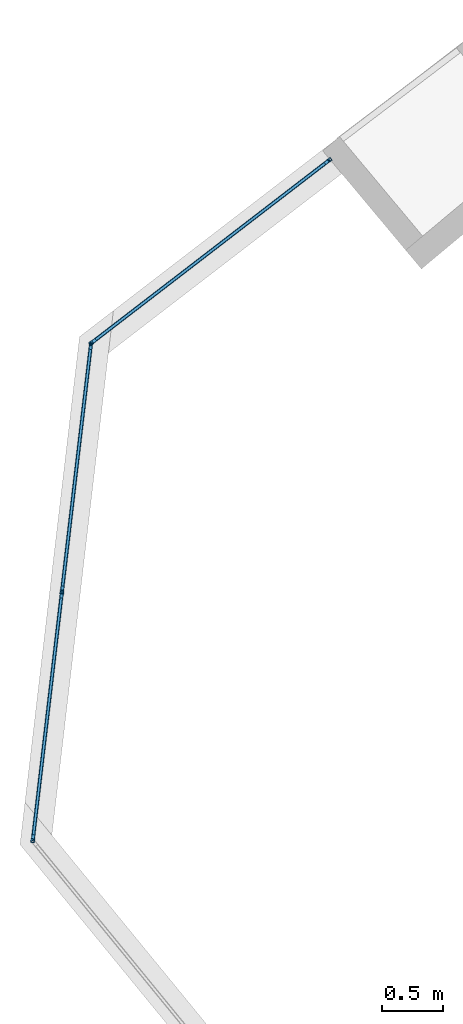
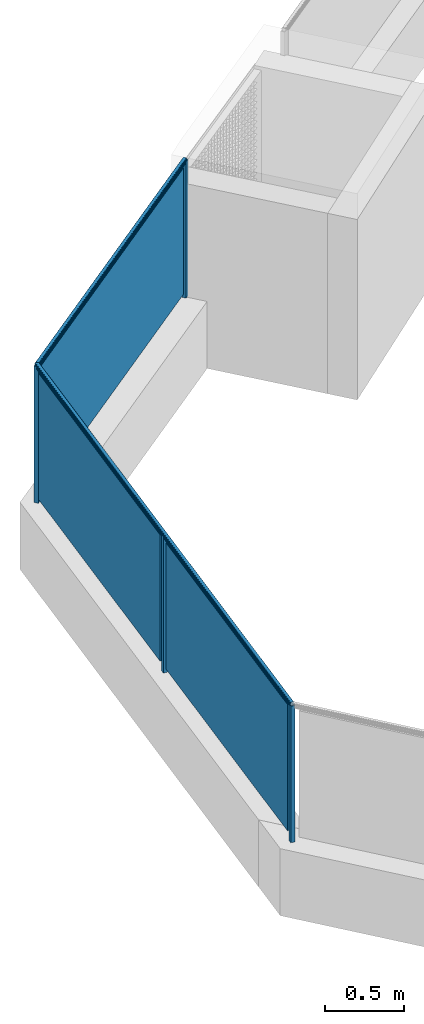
# One storey, part 27 of 67: 9 building element parts, 1 element without a shape of its own.
"""IFC4 building model written with IfcOpenShell, lengths in metres."""

from ifc_helpers import new_model, entity, si_unit, converted_unit, derived_unit, direction, frame, origin_with_axes, place, context, subcontext, project, spatial, polygons, material, type_object, element, aggregate, save


model = new_model("IFC4")

# Units and contexts
model_context = context("Model", 3, precision=1e-05, world=origin_with_axes(), true_north=direction((0.0, 1.0)))
body_context = subcontext(model_context, "Body", "Model", "MODEL_VIEW")
ifc_project = project(units=[si_unit("LENGTHUNIT", "METRE"), si_unit("AREAUNIT", "SQUARE_METRE"), si_unit("VOLUMEUNIT", "CUBIC_METRE"), converted_unit("PLANEANGLEUNIT", "DEGREE", entity("IfcPlaneAngleMeasure", 0.0174532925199), si_unit("PLANEANGLEUNIT", "RADIAN"), dimensions=[0, 0, 0, 0, 0, 0, 0]), converted_unit("TIMEUNIT", "Year", entity("IfcTimeMeasure", 31556926.0), si_unit("TIMEUNIT", "SECOND"), dimensions=[0, 0, 1, 0, 0, 0, 0]), si_unit("MASSUNIT", "GRAM", prefix="KILO"), si_unit("THERMODYNAMICTEMPERATUREUNIT", "DEGREE_CELSIUS"), si_unit("LUMINOUSINTENSITYUNIT", "LUMEN"), si_unit("ENERGYUNIT", "JOULE", prefix="MEGA"), derived_unit("THERMALCONDUCTANCEUNIT", [(si_unit("POWERUNIT", "WATT"), 1), (si_unit("LENGTHUNIT", "METRE"), -1), (si_unit("THERMODYNAMICTEMPERATUREUNIT", "KELVIN"), -1)]), derived_unit("SPECIFICHEATCAPACITYUNIT", [(si_unit("ENERGYUNIT", "JOULE"), 1), (si_unit("MASSUNIT", "GRAM", prefix="KILO"), -1), (si_unit("THERMODYNAMICTEMPERATUREUNIT", "KELVIN"), -1)]), derived_unit("MASSDENSITYUNIT", [(si_unit("MASSUNIT", "GRAM", prefix="KILO"), 1), (si_unit("VOLUMEUNIT", "CUBIC_METRE"), -1)])], contexts=[model_context])

# Site, building, storey
site_placement = place(None, frame((-0.00153261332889, -0.00661245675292, 0.0), z_axis=(0.0, 0.0, 1.0), x_axis=(1.0, 0.0, 0.0)))
site = spatial("IfcSite", under=ifc_project, at=site_placement, Name="Site", CompositionType="ELEMENT")
building_placement = place(site_placement, origin_with_axes())
building = spatial("IfcBuilding", under=site, at=building_placement, Name="Building", CompositionType="ELEMENT")
storey_placement = place(building_placement, frame((0.0, 0.0, -0.22), z_axis=(0.0, 0.0, 1.0), x_axis=(1.0, 0.0, 0.0)))
storey = spatial("IfcBuildingStorey", under=building, at=storey_placement, Name="EG", CompositionType="ELEMENT", Elevation=-0.22)

# Railing, building element parts
railing_type = type_object("IfcRailingType", Name="Geländerart", PredefinedType="NOTDEFINED")
railing_placement = place(storey_placement, frame((-12.1608341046, 23.557810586, 0.523948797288), z_axis=(0.0, 0.0, 1.0), x_axis=(1.0, 0.0, 0.0)))
railing = element("IfcRailing", 1, at=railing_placement, inside=storey, type_object=railing_type, Name="Geländer - 001", PredefinedType="NOTDEFINED")
ifc_material_1 = material(Name="Aluminium")
building_element_part_1_placement = place(railing_placement, origin_with_axes())
building_element_part_1 = element("IfcBuildingElementPart", 2, at=building_element_part_1_placement, material=ifc_material_1, Name="Aluminium", PredefinedType="NOTDEFINED", context=body_context, shape_type="Tessellation", body=[
    polygons([(0.0399227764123, -0.076525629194, 0.0), (0.0582099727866, -0.10030752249, 0.0), (0.0582099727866, -0.10030752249, 1.06), (0.0399227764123, -0.076525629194, 1.06), (0.0637046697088, -0.0582384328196, 0.0), (0.0819918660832, -0.0820203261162, 0.0), (0.0469342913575, -0.0774414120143, 0.0), (0.059125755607, -0.0932960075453, 0.0), (0.074980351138, -0.0811045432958, 0.0), (0.0627888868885, -0.0652499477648, 0.0), (0.0819918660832, -0.0820203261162, 1.06), (0.0637046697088, -0.0582384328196, 1.06), (0.0469342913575, -0.0774414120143, 1.06), (0.0627888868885, -0.0652499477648, 1.06), (0.074980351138, -0.0811045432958, 1.06), (0.059125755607, -0.0932960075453, 1.06)], [[[1, 2, 3, 4]], [[1, 5, 6, 2], [7, 8, 9, 10]], [[2, 6, 11, 3]], [[4, 3, 11, 12], [13, 14, 15, 16]], [[5, 1, 4, 12]], [[6, 5, 12, 11]], [[8, 7, 13, 16]], [[9, 8, 16, 15]], [[10, 9, 15, 14]], [[7, 10, 14, 13]]], closed=True),
])
building_element_part_2_placement = place(railing_placement, origin_with_axes())
building_element_part_2 = element("IfcBuildingElementPart", 3, at=building_element_part_2_placement, material=ifc_material_1, Name="Aluminium", PredefinedType="NOTDEFINED", context=body_context, shape_type="Tessellation", body=[
    polygons([(-1.91102656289, -1.57671710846, 0.0), (-1.89273936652, -1.60049900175, 0.0), (-1.89273936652, -1.60049900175, 1.06), (-1.91102656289, -1.57671710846, 1.06), (-1.88724466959, -1.55842991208, 0.0), (-1.86895747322, -1.58221180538, 0.0), (-1.90401504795, -1.57763289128, 0.0), (-1.8918235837, -1.59348748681, 0.0), (-1.87596898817, -1.58129602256, 0.0), (-1.88816045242, -1.56544142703, 0.0), (-1.86895747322, -1.58221180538, 1.06), (-1.88724466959, -1.55842991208, 1.06), (-1.90401504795, -1.57763289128, 1.06), (-1.88816045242, -1.56544142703, 1.06), (-1.87596898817, -1.58129602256, 1.06), (-1.8918235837, -1.59348748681, 1.06)], [[[1, 2, 3, 4]], [[1, 5, 6, 2], [7, 8, 9, 10]], [[2, 6, 11, 3]], [[4, 3, 11, 12], [13, 14, 15, 16]], [[5, 1, 4, 12]], [[6, 5, 12, 11]], [[8, 7, 13, 16]], [[9, 8, 16, 15]], [[10, 9, 15, 14]], [[7, 10, 14, 13]]], closed=True),
])
building_element_part_3_placement = place(railing_placement, origin_with_axes())
building_element_part_3 = element("IfcBuildingElementPart", 4, at=building_element_part_3_placement, material=ifc_material_1, Name="Aluminium", PredefinedType="NOTDEFINED", context=body_context, shape_type="Tessellation", body=[
    polygons([(-2.38353869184, -5.66011663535, 0.0), (-2.35374279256, -5.66361011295, 0.0), (-2.35374279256, -5.66361011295, 1.06), (-2.38353869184, -5.66011663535, 1.06), (-2.38004521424, -5.63032073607, 0.0), (-2.35024931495, -5.63381421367, 0.0), (-2.37799046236, -5.6557328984, 0.0), (-2.3581265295, -5.65806188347, 0.0), (-2.35579754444, -5.63819795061, 0.0), (-2.37566147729, -5.63586896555, 0.0), (-2.35024931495, -5.63381421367, 1.06), (-2.38004521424, -5.63032073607, 1.06), (-2.37799046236, -5.6557328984, 1.06), (-2.37566147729, -5.63586896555, 1.06), (-2.35579754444, -5.63819795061, 1.06), (-2.3581265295, -5.65806188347, 1.06)], [[[1, 2, 3, 4]], [[1, 5, 6, 2], [7, 8, 9, 10]], [[2, 6, 11, 3]], [[4, 3, 11, 12], [13, 14, 15, 16]], [[5, 1, 4, 12]], [[6, 5, 12, 11]], [[8, 7, 13, 16]], [[9, 8, 16, 15]], [[10, 9, 15, 14]], [[7, 10, 14, 13]]], closed=True),
])
building_element_part_4_placement = place(railing_placement, origin_with_axes())
building_element_part_4 = element("IfcBuildingElementPart", 5, at=building_element_part_4_placement, material=ifc_material_1, Name="Aluminium", PredefinedType="NOTDEFINED", context=body_context, shape_type="Tessellation", body=[
    polygons([(0.0547792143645, -0.0712385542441, 1.07636363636), (0.054635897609, -0.0710521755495, 1.07634109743), (-1.899782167, -1.57391094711, 1.07634109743), (-1.89956020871, -1.57403685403, 1.07636363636), (0.0547792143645, -0.0712385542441, 1.07818181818), (0.0548168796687, -0.0712875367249, 1.07820551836), (0.0568268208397, -0.0739013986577, 1.0792391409), (0.0588658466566, -0.0765530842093, 1.07983921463), (0.0609184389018, -0.0792224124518, 1.08000117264), (0.0609573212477, -0.0792729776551, 1.08), (0.0609962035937, -0.0793235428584, 1.08000117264), (0.0630487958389, -0.0819928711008, 1.07983921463), (0.0650878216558, -0.0846445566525, 1.0792391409), (0.0670977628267, -0.0872584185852, 1.07820551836), (0.0671354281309, -0.0873074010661, 1.07818181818), (0.0671354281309, -0.087307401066, 1.07636363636), (0.0672787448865, -0.0874937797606, 1.07634109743), (0.067809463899, -0.0881839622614, 1.0761115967), (0.0683158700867, -0.0888425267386, 1.07565956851), (0.0687825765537, -0.0894494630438, 1.07499874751), (0.0691954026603, -0.0899863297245, 1.0741492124), (0.0695418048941, -0.0904368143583, 1.07313677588), (0.0698112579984, -0.0907872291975, 1.07199220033), (0.0699955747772, -0.0910269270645, 1.07075026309), (0.0700891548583, -0.091148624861, 1.06944869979), (0.0700891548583, -0.091148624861, 1.06812705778), (0.0699955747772, -0.0910269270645, 1.06682549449), (0.0698112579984, -0.0907872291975, 1.06558355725), (0.0695418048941, -0.0904368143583, 1.06443898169), (0.0691954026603, -0.0899863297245, 1.06342654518), (0.0687825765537, -0.0894494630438, 1.06257701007), (0.0683158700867, -0.0888425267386, 1.06191618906), (0.067809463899, -0.0881839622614, 1.06146416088), (0.0672787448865, -0.0874937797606, 1.06123466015), (0.0671354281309, -0.087307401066, 1.06121212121), (0.0671354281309, -0.0873074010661, 1.05818181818), (0.0670385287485, -0.0871813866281, 1.05810011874), (0.0665871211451, -0.0865943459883, 1.05758389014), (0.0661791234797, -0.0860637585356, 1.05688326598), (0.0658269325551, -0.0856057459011, 1.05601953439), (0.0655412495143, -0.085234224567, 1.05501893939), (0.0653307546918, -0.084960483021, 1.05391188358), (0.0652018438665, -0.0847928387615, 1.05273200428), (0.0651584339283, -0.0847363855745, 1.05151515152), (0.0652018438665, -0.0847928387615, 1.05029829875), (0.0653307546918, -0.084960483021, 1.04911841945), (0.0655412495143, -0.085234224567, 1.04801136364), (0.0658269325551, -0.0856057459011, 1.04701076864), (0.0661791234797, -0.0860637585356, 1.04614703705), (0.0665871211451, -0.0865943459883, 1.04544641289), (0.0670385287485, -0.0871813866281, 1.04493018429), (0.0671354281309, -0.0873074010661, 1.04484848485), (0.0671354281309, -0.0873074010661, 1.04), (0.0547792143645, -0.0712385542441, 1.04), (0.0547792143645, -0.0712385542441, 1.04484848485), (0.0548761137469, -0.071364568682, 1.04493018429), (0.0553275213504, -0.0719516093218, 1.04544641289), (0.0557355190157, -0.0724821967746, 1.04614703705), (0.0560877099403, -0.0729402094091, 1.04701076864), (0.0563733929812, -0.0733117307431, 1.04801136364), (0.0565838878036, -0.0735854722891, 1.04911841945), (0.056712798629, -0.0737531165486, 1.05029829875), (0.0567562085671, -0.0738095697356, 1.05151515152), (0.056712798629, -0.0737531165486, 1.05273200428), (0.0565838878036, -0.0735854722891, 1.05391188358), (0.0563733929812, -0.0733117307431, 1.05501893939), (0.0560877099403, -0.0729402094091, 1.05601953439), (0.0557355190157, -0.0724821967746, 1.05688326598), (0.0553275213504, -0.0719516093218, 1.05758389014), (0.0548761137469, -0.071364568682, 1.05810011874), (0.0547792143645, -0.0712385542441, 1.05818181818), (0.0547792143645, -0.0712385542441, 1.06121212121), (0.054635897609, -0.0710521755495, 1.06123466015), (0.0541051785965, -0.0703619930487, 1.06146416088), (0.0535987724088, -0.0697034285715, 1.06191618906), (0.0531320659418, -0.0690964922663, 1.06257701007), (0.0527192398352, -0.0685596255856, 1.06342654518), (0.0523728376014, -0.0681091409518, 1.06443898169), (0.052103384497, -0.0677587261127, 1.06558355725), (0.0519190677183, -0.0675190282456, 1.06682549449), (0.0518254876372, -0.0673973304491, 1.06812705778), (0.0518254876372, -0.0673973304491, 1.06944869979), (0.0519190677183, -0.0675190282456, 1.07075026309), (0.052103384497, -0.0677587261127, 1.07199220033), (0.0523728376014, -0.0681091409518, 1.07313677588), (0.0527192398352, -0.0685596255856, 1.0741492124), (0.0531320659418, -0.0690964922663, 1.07499874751), (0.0535987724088, -0.0697034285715, 1.07565956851), (0.0541051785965, -0.0703619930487, 1.0761115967), (-1.90060410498, -1.57344469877, 1.0761115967), (-1.90138838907, -1.57299980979, 1.07565956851), (-1.9021111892, -1.57258979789, 1.07499874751), (-1.90275054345, -1.57222712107, 1.0741492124), (-1.90328702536, -1.57192279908, 1.07313677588), (-1.90370433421, -1.57168607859, 1.07199220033), (-1.90398979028, -1.57152415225, 1.07075026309), (-1.90413472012, -1.57144194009, 1.06944869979), (-1.90413472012, -1.57144194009, 1.06812705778), (-1.90398979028, -1.57152415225, 1.06682549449), (-1.90370433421, -1.57168607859, 1.06558355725), (-1.90328702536, -1.57192279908, 1.06443898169), (-1.90275054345, -1.57222712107, 1.06342654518), (-1.9021111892, -1.57258979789, 1.06257701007), (-1.90138838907, -1.57299980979, 1.06191618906), (-1.90060410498, -1.57344469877, 1.06146416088), (-1.899782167, -1.57391094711, 1.06123466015), (-1.89956020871, -1.57403685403, 1.06121212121), (-1.89956020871, -1.57403685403, 1.05818181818), (-1.89941013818, -1.57412198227, 1.05810011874), (-1.89871103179, -1.57451855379, 1.05758389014), (-1.89807915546, -1.57487698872, 1.05688326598), (-1.89753370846, -1.5751863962, 1.05601953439), (-1.89709126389, -1.57543737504, 1.05501893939), (-1.89676526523, -1.57562229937, 1.05391188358), (-1.89656561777, -1.57573555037, 1.05273200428), (-1.8964983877, -1.57577368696, 1.05151515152), (-1.89656561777, -1.57573555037, 1.05029829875), (-1.89676526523, -1.57562229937, 1.04911841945), (-1.89709126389, -1.57543737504, 1.04801136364), (-1.89753370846, -1.5751863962, 1.04701076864), (-1.89807915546, -1.57487698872, 1.04614703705), (-1.89871103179, -1.57451855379, 1.04544641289), (-1.89941013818, -1.57412198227, 1.04493018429), (-1.89956020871, -1.57403685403, 1.04484848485), (-1.89956020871, -1.57403685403, 1.04), (-1.88042382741, -1.58489205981, 1.04), (-1.88042382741, -1.58489205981, 1.04484848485), (-1.88057389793, -1.58480693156, 1.04493018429), (-1.88127300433, -1.58441036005, 1.04544641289), (-1.88190488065, -1.58405192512, 1.04614703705), (-1.88245032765, -1.58374251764, 1.04701076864), (-1.88289277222, -1.5834915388, 1.04801136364), (-1.88321877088, -1.58330661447, 1.04911841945), (-1.88341841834, -1.58319336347, 1.05029829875), (-1.88348564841, -1.58315522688, 1.05151515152), (-1.88341841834, -1.58319336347, 1.05273200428), (-1.88321877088, -1.58330661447, 1.05391188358), (-1.88289277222, -1.5834915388, 1.05501893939), (-1.88245032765, -1.58374251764, 1.05601953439), (-1.88190488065, -1.58405192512, 1.05688326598), (-1.88127300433, -1.58441036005, 1.05758389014), (-1.88057389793, -1.58480693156, 1.05810011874), (-1.88042382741, -1.58489205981, 1.05818181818), (-1.88042382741, -1.58489205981, 1.06121212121), (-1.88020186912, -1.58501796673, 1.06123466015), (-1.87937993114, -1.58548421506, 1.06146416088), (-1.87859564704, -1.58592910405, 1.06191618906), (-1.87787284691, -1.58633911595, 1.06257701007), (-1.87723349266, -1.58670179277, 1.06342654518), (-1.87669701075, -1.58700611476, 1.06443898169), (-1.8762797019, -1.58724283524, 1.06558355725), (-1.87599424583, -1.58740476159, 1.06682549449), (-1.87584931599, -1.58748697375, 1.06812705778), (-1.87584931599, -1.58748697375, 1.06944869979), (-1.87599424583, -1.58740476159, 1.07075026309), (-1.8762797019, -1.58724283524, 1.07199220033), (-1.87669701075, -1.58700611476, 1.07313677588), (-1.87723349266, -1.58670179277, 1.0741492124), (-1.87787284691, -1.58633911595, 1.07499874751), (-1.87859564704, -1.58592910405, 1.07565956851), (-1.87937993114, -1.58548421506, 1.0761115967), (-1.88020186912, -1.58501796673, 1.07634109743), (-1.88042382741, -1.58489205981, 1.07636363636), (-1.88042382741, -1.58489205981, 1.07818181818), (-1.88048216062, -1.58485897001, 1.07820551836), (-1.88359500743, -1.58309319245, 1.0792391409), (-1.88675289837, -1.58130186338, 1.07983921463), (-1.88993179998, -1.57949861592, 1.08000117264), (-1.88999201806, -1.57946445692, 1.08), (-1.89005223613, -1.57943029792, 1.08000117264), (-1.89323113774, -1.57762705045, 1.07983921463), (-1.89638902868, -1.57583572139, 1.0792391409), (-1.89950187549, -1.57406994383, 1.07820551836), (-1.89956020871, -1.57403685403, 1.07818181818)], [[[1, 2, 3, 4]], [[1, 5, 6, 7, 8, 9, 10, 11, 12, 13, 14, 15, 16, 17, 18, 19, 20, 21, 22, 23, 24, 25, 26, 27, 28, 29, 30, 31, 32, 33, 34, 35, 36, 37, 38, 39, 40, 41, 42, 43, 44, 45, 46, 47, 48, 49, 50, 51, 52, 53, 54, 55, 56, 57, 58, 59, 60, 61, 62, 63, 64, 65, 66, 67, 68, 69, 70, 71, 72, 73, 74, 75, 76, 77, 78, 79, 80, 81, 82, 83, 84, 85, 86, 87, 88, 89, 2]], [[2, 89, 90, 3]], [[4, 3, 90, 91, 92, 93, 94, 95, 96, 97, 98, 99, 100, 101, 102, 103, 104, 105, 106, 107, 108, 109, 110, 111, 112, 113, 114, 115, 116, 117, 118, 119, 120, 121, 122, 123, 124, 125, 126, 127, 128, 129, 130, 131, 132, 133, 134, 135, 136, 137, 138, 139, 140, 141, 142, 143, 144, 145, 146, 147, 148, 149, 150, 151, 152, 153, 154, 155, 156, 157, 158, 159, 160, 161, 162, 163, 164, 165, 166, 167, 168, 169, 170, 171, 172, 173, 174]], [[5, 1, 4, 174]], [[6, 5, 174, 173]], [[7, 6, 173, 172]], [[8, 7, 172, 171]], [[9, 8, 171, 170]], [[10, 9, 170, 169]], [[11, 10, 169, 168]], [[12, 11, 168, 167]], [[13, 12, 167, 166]], [[14, 13, 166, 165]], [[15, 14, 165, 164]], [[16, 15, 164, 163]], [[17, 16, 163, 162]], [[18, 17, 162, 161]], [[19, 18, 161, 160]], [[20, 19, 160, 159]], [[21, 20, 159, 158]], [[22, 21, 158, 157]], [[23, 22, 157, 156]], [[24, 23, 156, 155]], [[25, 24, 155, 154]], [[26, 25, 154, 153]], [[27, 26, 153, 152]], [[28, 27, 152, 151]], [[29, 28, 151, 150]], [[30, 29, 150, 149]], [[31, 30, 149, 148]], [[32, 31, 148, 147]], [[33, 32, 147, 146]], [[34, 33, 146, 145]], [[35, 34, 145, 144]], [[36, 35, 144, 143]], [[37, 36, 143, 142]], [[38, 37, 142, 141]], [[39, 38, 141, 140]], [[40, 39, 140, 139]], [[41, 40, 139, 138]], [[42, 41, 138, 137]], [[43, 42, 137, 136]], [[44, 43, 136, 135]], [[45, 44, 135, 134]], [[46, 45, 134, 133]], [[47, 46, 133, 132]], [[48, 47, 132, 131]], [[49, 48, 131, 130]], [[50, 49, 130, 129]], [[51, 50, 129, 128]], [[52, 51, 128, 127]], [[53, 52, 127, 126]], [[54, 53, 126, 125]], [[55, 54, 125, 124]], [[56, 55, 124, 123]], [[57, 56, 123, 122]], [[58, 57, 122, 121]], [[59, 58, 121, 120]], [[60, 59, 120, 119]], [[61, 60, 119, 118]], [[62, 61, 118, 117]], [[63, 62, 117, 116]], [[64, 63, 116, 115]], [[65, 64, 115, 114]], [[66, 65, 114, 113]], [[67, 66, 113, 112]], [[68, 67, 112, 111]], [[69, 68, 111, 110]], [[70, 69, 110, 109]], [[71, 70, 109, 108]], [[72, 71, 108, 107]], [[73, 72, 107, 106]], [[74, 73, 106, 105]], [[75, 74, 105, 104]], [[76, 75, 104, 103]], [[77, 76, 103, 102]], [[78, 77, 102, 101]], [[79, 78, 101, 100]], [[80, 79, 100, 99]], [[81, 80, 99, 98]], [[82, 81, 98, 97]], [[83, 82, 97, 96]], [[84, 83, 96, 95]], [[85, 84, 95, 94]], [[86, 85, 94, 93]], [[87, 86, 93, 92]], [[88, 87, 92, 91]], [[89, 88, 91, 90]]], closed=True),
])
ifc_material_2 = material(Name="Zaun")
building_element_part_5_placement = place(railing_placement, origin_with_axes())
building_element_part_5 = element("IfcBuildingElementPart", 6, at=building_element_part_5_placement, material=ifc_material_2, Name="Zaun", PredefinedType="NOTDEFINED", context=body_context, shape_type="Tessellation", body=[
    polygons([(-1.8442597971, -1.55691309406, 0.05), (0.027416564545, -0.117678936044, 0.05), (0.027416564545, -0.117678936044, 1.03), (-1.8442597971, -1.55691309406, 1.03), (0.0152251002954, -0.101824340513, 0.05), (-1.85645126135, -1.54105849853, 0.05), (0.0152251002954, -0.101824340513, 1.03), (-1.85645126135, -1.54105849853, 1.03)], [[[1, 2, 3, 4]], [[5, 2, 1, 6]], [[7, 3, 2, 5]], [[4, 3, 7, 8]], [[1, 4, 8, 6]], [[7, 5, 6, 8]]], closed=True),
])
building_element_part_6_placement = place(railing_placement, origin_with_axes())
building_element_part_6 = element("IfcBuildingElementPart", 7, at=building_element_part_6_placement, material=ifc_material_1, Name="Aluminium", PredefinedType="NOTDEFINED", context=body_context, shape_type="Tessellation", body=[
    polygons([(-1.89956020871, -1.57403685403, 1.07636363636), (-1.899782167, -1.57391094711, 1.07634109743), (-2.37770623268, -5.65012924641, 1.07634109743), (-2.3774611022, -5.65005751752, 1.07636363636), (-1.89956020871, -1.57403685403, 1.07818181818), (-1.89950187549, -1.57406994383, 1.07820551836), (-1.89638902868, -1.57583572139, 1.0792391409), (-1.89323113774, -1.57762705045, 1.07983921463), (-1.89005223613, -1.57943029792, 1.08000117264), (-1.88999201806, -1.57946445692, 1.08), (-1.88993179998, -1.57949861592, 1.08000117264), (-1.88675289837, -1.58130186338, 1.07983921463), (-1.88359500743, -1.58309319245, 1.0792391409), (-1.88048216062, -1.58485897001, 1.07820551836), (-1.88042382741, -1.58489205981, 1.07818181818), (-1.88042382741, -1.58489205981, 1.07636363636), (-1.88020186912, -1.58501796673, 1.07634109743), (-1.87937993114, -1.58548421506, 1.0761115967), (-1.87859564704, -1.58592910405, 1.07565956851), (-1.87787284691, -1.58633911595, 1.07499874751), (-1.87723349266, -1.58670179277, 1.0741492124), (-1.87669701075, -1.58700611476, 1.07313677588), (-1.8762797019, -1.58724283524, 1.07199220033), (-1.87599424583, -1.58740476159, 1.07075026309), (-1.87584931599, -1.58748697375, 1.06944869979), (-1.87584931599, -1.58748697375, 1.06812705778), (-1.87599424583, -1.58740476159, 1.06682549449), (-1.8762797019, -1.58724283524, 1.06558355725), (-1.87669701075, -1.58700611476, 1.06443898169), (-1.87723349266, -1.58670179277, 1.06342654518), (-1.87787284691, -1.58633911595, 1.06257701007), (-1.87859564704, -1.58592910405, 1.06191618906), (-1.87937993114, -1.58548421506, 1.06146416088), (-1.88020186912, -1.58501796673, 1.06123466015), (-1.88042382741, -1.58489205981, 1.06121212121), (-1.88042382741, -1.58489205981, 1.05818181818), (-1.88057389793, -1.58480693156, 1.05810011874), (-1.88127300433, -1.58441036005, 1.05758389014), (-1.88190488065, -1.58405192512, 1.05688326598), (-1.88245032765, -1.58374251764, 1.05601953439), (-1.88289277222, -1.5834915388, 1.05501893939), (-1.88321877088, -1.58330661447, 1.05391188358), (-1.88341841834, -1.58319336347, 1.05273200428), (-1.88348564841, -1.58315522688, 1.05151515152), (-1.88341841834, -1.58319336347, 1.05029829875), (-1.88321877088, -1.58330661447, 1.04911841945), (-1.88289277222, -1.5834915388, 1.04801136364), (-1.88245032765, -1.58374251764, 1.04701076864), (-1.88190488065, -1.58405192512, 1.04614703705), (-1.88127300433, -1.58441036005, 1.04544641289), (-1.88057389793, -1.58480693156, 1.04493018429), (-1.88042382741, -1.58489205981, 1.04484848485), (-1.88042382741, -1.58489205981, 1.04), (-1.89956020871, -1.57403685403, 1.04), (-1.89956020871, -1.57403685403, 1.04484848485), (-1.89941013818, -1.57412198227, 1.04493018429), (-1.89871103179, -1.57451855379, 1.04544641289), (-1.89807915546, -1.57487698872, 1.04614703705), (-1.89753370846, -1.5751863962, 1.04701076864), (-1.89709126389, -1.57543737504, 1.04801136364), (-1.89676526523, -1.57562229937, 1.04911841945), (-1.89656561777, -1.57573555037, 1.05029829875), (-1.8964983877, -1.57577368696, 1.05151515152), (-1.89656561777, -1.57573555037, 1.05273200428), (-1.89676526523, -1.57562229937, 1.05391188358), (-1.89709126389, -1.57543737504, 1.05501893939), (-1.89753370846, -1.5751863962, 1.05601953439), (-1.89807915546, -1.57487698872, 1.05688326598), (-1.89871103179, -1.57451855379, 1.05758389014), (-1.89941013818, -1.57412198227, 1.05810011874), (-1.89956020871, -1.57403685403, 1.05818181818), (-1.89956020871, -1.57403685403, 1.06121212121), (-1.899782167, -1.57391094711, 1.06123466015), (-1.90060410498, -1.57344469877, 1.06146416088), (-1.90138838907, -1.57299980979, 1.06191618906), (-1.9021111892, -1.57258979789, 1.06257701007), (-1.90275054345, -1.57222712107, 1.06342654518), (-1.90328702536, -1.57192279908, 1.06443898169), (-1.90370433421, -1.57168607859, 1.06558355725), (-1.90398979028, -1.57152415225, 1.06682549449), (-1.90413472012, -1.57144194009, 1.06812705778), (-1.90413472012, -1.57144194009, 1.06944869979), (-1.90398979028, -1.57152415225, 1.07075026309), (-1.90370433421, -1.57168607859, 1.07199220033), (-1.90328702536, -1.57192279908, 1.07313677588), (-1.90275054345, -1.57222712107, 1.0741492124), (-1.9021111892, -1.57258979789, 1.07499874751), (-1.90138838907, -1.57299980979, 1.07565956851), (-1.90060410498, -1.57344469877, 1.0761115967), (-2.37861398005, -5.65039486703, 1.0761115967), (-2.3794801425, -5.65064831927, 1.07565956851), (-2.38027840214, -5.65088190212, 1.07499874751), (-2.38098450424, -5.65108851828, 1.0741492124), (-2.38157699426, -5.65126188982, 1.07313677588), (-2.38203786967, -5.65139674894, 1.07199220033), (-2.38235312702, -5.65148899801, 1.07075026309), (-2.38251318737, -5.6515358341, 1.06944869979), (-2.38251318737, -5.6515358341, 1.06812705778), (-2.38235312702, -5.65148899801, 1.06682549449), (-2.38203786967, -5.65139674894, 1.06558355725), (-2.38157699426, -5.65126188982, 1.06443898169), (-2.38098450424, -5.65108851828, 1.06342654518), (-2.38027840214, -5.65088190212, 1.06257701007), (-2.3794801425, -5.65064831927, 1.06191618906), (-2.37861398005, -5.65039486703, 1.06146416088), (-2.37770623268, -5.65012924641, 1.06123466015), (-2.3774611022, -5.65005751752, 1.06121212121), (-2.3774611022, -5.65005751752, 1.05818181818), (-2.37729536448, -5.65000902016, 1.05810011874), (-2.37652327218, -5.64978309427, 1.05758389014), (-2.3758254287, -5.64957889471, 1.05688326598), (-2.37522303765, -5.64940262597, 1.05601953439), (-2.37473440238, -5.64925964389, 1.05501893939), (-2.37437436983, -5.64915429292, 1.05391188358), (-2.3741538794, -5.64908977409, 1.05273200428), (-2.37407963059, -5.64906804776, 1.05151515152), (-2.3741538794, -5.64908977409, 1.05029829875), (-2.37437436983, -5.64915429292, 1.04911841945), (-2.37473440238, -5.64925964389, 1.04801136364), (-2.37522303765, -5.64940262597, 1.04701076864), (-2.3758254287, -5.64957889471, 1.04614703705), (-2.37652327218, -5.64978309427, 1.04544641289), (-2.37729536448, -5.65000902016, 1.04493018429), (-2.3774611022, -5.65005751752, 1.04484848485), (-2.3774611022, -5.65005751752, 1.04), (-2.35632690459, -5.64387333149, 1.04), (-2.35632690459, -5.64387333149, 1.04484848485), (-2.35649264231, -5.64392182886, 1.04493018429), (-2.35726473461, -5.64414775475, 1.04544641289), (-2.3579625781, -5.64435195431, 1.04614703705), (-2.35856496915, -5.64452822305, 1.04701076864), (-2.35905360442, -5.64467120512, 1.04801136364), (-2.35941363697, -5.6447765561, 1.04911841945), (-2.3596341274, -5.64484107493, 1.05029829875), (-2.35970837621, -5.64486280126, 1.05151515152), (-2.3596341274, -5.64484107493, 1.05273200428), (-2.35941363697, -5.6447765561, 1.05391188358), (-2.35905360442, -5.64467120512, 1.05501893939), (-2.35856496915, -5.64452822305, 1.05601953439), (-2.3579625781, -5.64435195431, 1.05688326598), (-2.35726473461, -5.64414775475, 1.05758389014), (-2.35649264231, -5.64392182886, 1.05810011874), (-2.35632690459, -5.64387333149, 1.05818181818), (-2.35632690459, -5.64387333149, 1.06121212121), (-2.35608177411, -5.64380160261, 1.06123466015), (-2.35517402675, -5.64353598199, 1.06146416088), (-2.35430786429, -5.64328252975, 1.06191618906), (-2.35350960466, -5.6430489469, 1.06257701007), (-2.35280350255, -5.64284233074, 1.06342654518), (-2.35221101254, -5.6426689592, 1.06443898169), (-2.35175013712, -5.64253410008, 1.06558355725), (-2.35143487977, -5.642441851, 1.06682549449), (-2.35127481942, -5.64239501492, 1.06812705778), (-2.35127481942, -5.64239501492, 1.06944869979), (-2.35143487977, -5.642441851, 1.07075026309), (-2.35175013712, -5.64253410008, 1.07199220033), (-2.35221101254, -5.6426689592, 1.07313677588), (-2.35280350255, -5.64284233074, 1.0741492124), (-2.35350960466, -5.6430489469, 1.07499874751), (-2.35430786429, -5.64328252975, 1.07565956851), (-2.35517402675, -5.64353598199, 1.0761115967), (-2.35608177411, -5.64380160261, 1.07634109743), (-2.35632690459, -5.64387333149, 1.07636363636), (-2.35632690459, -5.64387333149, 1.07818181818), (-2.35639132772, -5.64389218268, 1.07820551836), (-2.35982915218, -5.64489814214, 1.0792391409), (-2.36331672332, -5.64591865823, 1.07983921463), (-2.36682749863, -5.64694596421, 1.08000117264), (-2.3668940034, -5.64696542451, 1.08), (-2.36696050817, -5.64698488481, 1.08000117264), (-2.37047128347, -5.64801219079, 1.07983921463), (-2.37395885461, -5.64903270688, 1.0792391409), (-2.37739667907, -5.65003866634, 1.07820551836), (-2.3774611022, -5.65005751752, 1.07818181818)], [[[1, 2, 3, 4]], [[1, 5, 6, 7, 8, 9, 10, 11, 12, 13, 14, 15, 16, 17, 18, 19, 20, 21, 22, 23, 24, 25, 26, 27, 28, 29, 30, 31, 32, 33, 34, 35, 36, 37, 38, 39, 40, 41, 42, 43, 44, 45, 46, 47, 48, 49, 50, 51, 52, 53, 54, 55, 56, 57, 58, 59, 60, 61, 62, 63, 64, 65, 66, 67, 68, 69, 70, 71, 72, 73, 74, 75, 76, 77, 78, 79, 80, 81, 82, 83, 84, 85, 86, 87, 88, 89, 2]], [[2, 89, 90, 3]], [[4, 3, 90, 91, 92, 93, 94, 95, 96, 97, 98, 99, 100, 101, 102, 103, 104, 105, 106, 107, 108, 109, 110, 111, 112, 113, 114, 115, 116, 117, 118, 119, 120, 121, 122, 123, 124, 125, 126, 127, 128, 129, 130, 131, 132, 133, 134, 135, 136, 137, 138, 139, 140, 141, 142, 143, 144, 145, 146, 147, 148, 149, 150, 151, 152, 153, 154, 155, 156, 157, 158, 159, 160, 161, 162, 163, 164, 165, 166, 167, 168, 169, 170, 171, 172, 173, 174]], [[5, 1, 4, 174]], [[6, 5, 174, 173]], [[7, 6, 173, 172]], [[8, 7, 172, 171]], [[9, 8, 171, 170]], [[10, 9, 170, 169]], [[11, 10, 169, 168]], [[12, 11, 168, 167]], [[13, 12, 167, 166]], [[14, 13, 166, 165]], [[15, 14, 165, 164]], [[16, 15, 164, 163]], [[17, 16, 163, 162]], [[18, 17, 162, 161]], [[19, 18, 161, 160]], [[20, 19, 160, 159]], [[21, 20, 159, 158]], [[22, 21, 158, 157]], [[23, 22, 157, 156]], [[24, 23, 156, 155]], [[25, 24, 155, 154]], [[26, 25, 154, 153]], [[27, 26, 153, 152]], [[28, 27, 152, 151]], [[29, 28, 151, 150]], [[30, 29, 150, 149]], [[31, 30, 149, 148]], [[32, 31, 148, 147]], [[33, 32, 147, 146]], [[34, 33, 146, 145]], [[35, 34, 145, 144]], [[36, 35, 144, 143]], [[37, 36, 143, 142]], [[38, 37, 142, 141]], [[39, 38, 141, 140]], [[40, 39, 140, 139]], [[41, 40, 139, 138]], [[42, 41, 138, 137]], [[43, 42, 137, 136]], [[44, 43, 136, 135]], [[45, 44, 135, 134]], [[46, 45, 134, 133]], [[47, 46, 133, 132]], [[48, 47, 132, 131]], [[49, 48, 131, 130]], [[50, 49, 130, 129]], [[51, 50, 129, 128]], [[52, 51, 128, 127]], [[53, 52, 127, 126]], [[54, 53, 126, 125]], [[55, 54, 125, 124]], [[56, 55, 124, 123]], [[57, 56, 123, 122]], [[58, 57, 122, 121]], [[59, 58, 121, 120]], [[60, 59, 120, 119]], [[61, 60, 119, 118]], [[62, 61, 118, 117]], [[63, 62, 117, 116]], [[64, 63, 116, 115]], [[65, 64, 115, 114]], [[66, 65, 114, 113]], [[67, 66, 113, 112]], [[68, 67, 112, 111]], [[69, 68, 111, 110]], [[70, 69, 110, 109]], [[71, 70, 109, 108]], [[72, 71, 108, 107]], [[73, 72, 107, 106]], [[74, 73, 106, 105]], [[75, 74, 105, 104]], [[76, 75, 104, 103]], [[77, 76, 103, 102]], [[78, 77, 102, 101]], [[79, 78, 101, 100]], [[80, 79, 100, 99]], [[81, 80, 99, 98]], [[82, 81, 98, 97]], [[83, 82, 97, 96]], [[84, 83, 96, 95]], [[85, 84, 95, 94]], [[86, 85, 94, 93]], [[87, 86, 93, 92]], [[88, 87, 92, 91]], [[89, 88, 91, 90]]], closed=True),
])
building_element_part_7_placement = place(railing_placement, origin_with_axes())
building_element_part_7 = element("IfcBuildingElementPart", 8, at=building_element_part_7_placement, material=ifc_material_2, Name="Zaun", PredefinedType="NOTDEFINED", context=body_context, shape_type="Tessellation", body=[
    polygons([(-2.11268858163, -3.5647196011, 0.05), (-1.8858825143, -1.6302887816, 0.05), (-1.8858825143, -1.6302887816, 1.03), (-2.11268858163, -3.5647196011, 1.03), (-1.90574644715, -1.62795979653, 0.05), (-2.13255251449, -3.56239061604, 0.05), (-1.90574644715, -1.62795979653, 1.03), (-2.13255251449, -3.56239061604, 1.03)], [[[1, 2, 3, 4]], [[5, 2, 1, 6]], [[7, 3, 2, 5]], [[4, 3, 7, 8]], [[1, 4, 8, 6]], [[7, 5, 6, 8]]], closed=True),
])
building_element_part_8_placement = place(railing_placement, origin_with_axes())
building_element_part_8 = element("IfcBuildingElementPart", 9, at=building_element_part_8_placement, material=ifc_material_1, Name="Aluminium", PredefinedType="NOTDEFINED", context=body_context, shape_type="Tessellation", body=[
    polygons([(-2.14508769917, -3.62636615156, 0.0), (-2.11529179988, -3.62985962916, 0.0), (-2.11529179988, -3.62985962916, 1.06), (-2.14508769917, -3.62636615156, 1.06), (-2.14159422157, -3.59657025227, 0.0), (-2.11179832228, -3.60006372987, 0.0), (-2.13953946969, -3.62198241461, 0.0), (-2.11967553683, -3.62431139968, 0.0), (-2.11734655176, -3.60444746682, 0.0), (-2.13721048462, -3.60211848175, 0.0), (-2.11179832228, -3.60006372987, 1.06), (-2.14159422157, -3.59657025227, 1.06), (-2.13953946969, -3.62198241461, 1.06), (-2.13721048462, -3.60211848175, 1.06), (-2.11734655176, -3.60444746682, 1.06), (-2.11967553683, -3.62431139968, 1.06)], [[[1, 2, 3, 4]], [[1, 5, 6, 2], [7, 8, 9, 10]], [[2, 6, 11, 3]], [[4, 3, 11, 12], [13, 14, 15, 16]], [[5, 1, 4, 12]], [[6, 5, 12, 11]], [[8, 7, 13, 16]], [[9, 8, 16, 15]], [[10, 9, 15, 14]], [[7, 10, 14, 13]]], closed=True),
])
building_element_part_9_placement = place(railing_placement, origin_with_axes())
building_element_part_9 = element("IfcBuildingElementPart", 10, at=building_element_part_9_placement, material=ifc_material_2, Name="Zaun", PredefinedType="NOTDEFINED", context=body_context, shape_type="Tessellation", body=[
    polygons([(-2.3511395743, -5.5984700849, 0.05), (-2.12433350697, -3.66403926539, 0.05), (-2.12433350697, -3.66403926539, 1.03), (-2.3511395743, -5.5984700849, 1.03), (-2.14419743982, -3.66171028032, 0.05), (-2.37100350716, -5.59614109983, 0.05), (-2.14419743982, -3.66171028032, 1.03), (-2.37100350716, -5.59614109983, 1.03)], [[[1, 2, 3, 4]], [[5, 2, 1, 6]], [[7, 3, 2, 5]], [[4, 3, 7, 8]], [[1, 4, 8, 6]], [[7, 5, 6, 8]]], closed=True),
])
aggregate(railing, [building_element_part_1, building_element_part_2, building_element_part_3, building_element_part_4, building_element_part_5, building_element_part_6, building_element_part_7, building_element_part_8, building_element_part_9])

save(model, "model.ifc")
